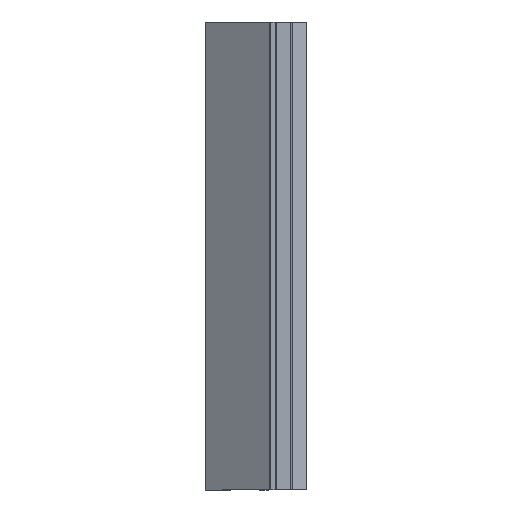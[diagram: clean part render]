
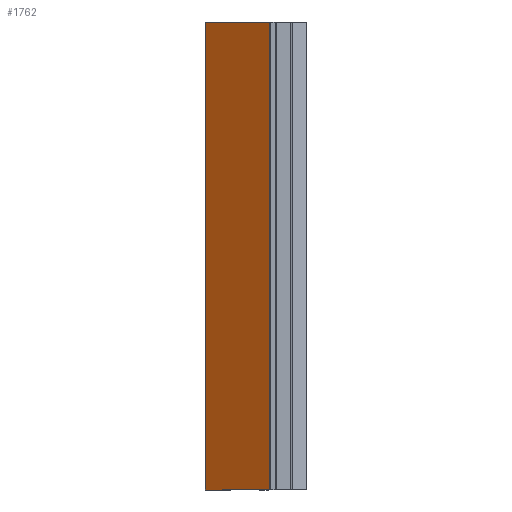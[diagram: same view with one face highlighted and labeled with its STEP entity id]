
A CAD part, left-side view. The second image highlights one B-rep face of the part: STEP entity #1762.
In plain terms, the highlighted planar face has unit normal (-0.829, 0.56, 0).
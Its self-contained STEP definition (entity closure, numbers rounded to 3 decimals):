
#27=PLANE('',#1860);
#92=FACE_OUTER_BOUND('',#185,.T.);
#185=EDGE_LOOP('',(#1202,#1203,#1204,#1205));
#278=LINE('',#2542,#487);
#279=LINE('',#2545,#488);
#280=LINE('',#2547,#489);
#281=LINE('',#2548,#490);
#487=VECTOR('',#2021,100.);
#488=VECTOR('',#2024,16.572);
#489=VECTOR('',#2025,16.572);
#490=VECTOR('',#2026,100.);
#753=VERTEX_POINT('',#2535);
#756=VERTEX_POINT('',#2540);
#757=VERTEX_POINT('',#2544);
#758=VERTEX_POINT('',#2546);
#934=EDGE_CURVE('',#753,#756,#278,.T.);
#935=EDGE_CURVE('',#757,#753,#279,.T.);
#936=EDGE_CURVE('',#758,#756,#280,.T.);
#937=EDGE_CURVE('',#757,#758,#281,.T.);
#1202=ORIENTED_EDGE('',*,*,#935,.T.);
#1203=ORIENTED_EDGE('',*,*,#934,.T.);
#1204=ORIENTED_EDGE('',*,*,#936,.F.);
#1205=ORIENTED_EDGE('',*,*,#937,.F.);
#1762=ADVANCED_FACE('',(#92),#27,.T.);
#1860=AXIS2_PLACEMENT_3D('',#2543,#2022,#2023);
#2021=DIRECTION('',(0.,0.,1.));
#2022=DIRECTION('center_axis',(-0.829,0.56,0.));
#2023=DIRECTION('ref_axis',(-0.56,-0.829,0.));
#2024=DIRECTION('',(-0.56,-0.829,0.));
#2025=DIRECTION('',(-0.56,-0.829,0.));
#2026=DIRECTION('',(0.,0.,1.));
#2535=CARTESIAN_POINT('',(-0.058,1.349,0.));
#2540=CARTESIAN_POINT('',(-0.058,1.349,100.));
#2542=CARTESIAN_POINT('',(-0.058,1.349,0.));
#2543=CARTESIAN_POINT('Origin',(9.221,15.079,0.));
#2544=CARTESIAN_POINT('',(9.221,15.079,0.));
#2545=CARTESIAN_POINT('',(9.221,15.079,0.));
#2546=CARTESIAN_POINT('',(9.221,15.079,100.));
#2547=CARTESIAN_POINT('',(9.221,15.079,100.));
#2548=CARTESIAN_POINT('',(9.221,15.079,0.));
